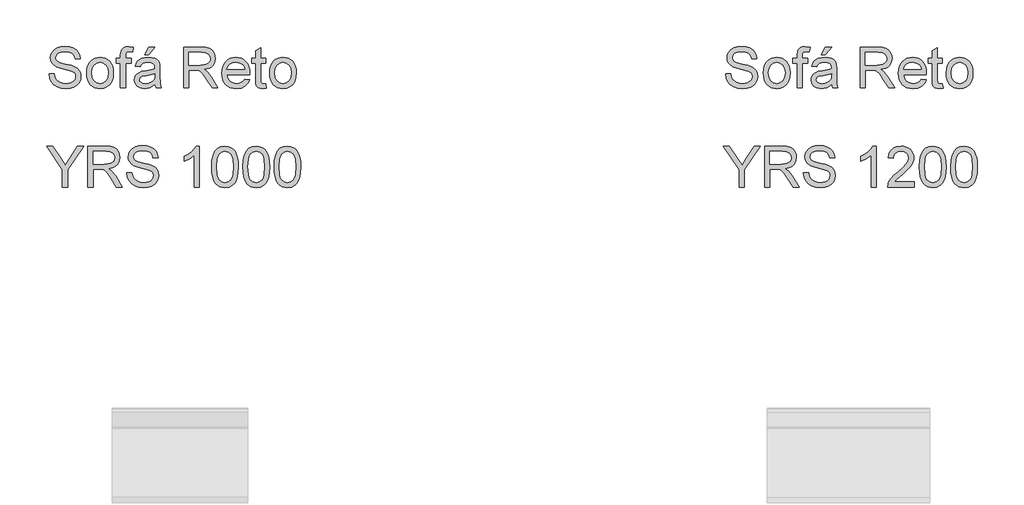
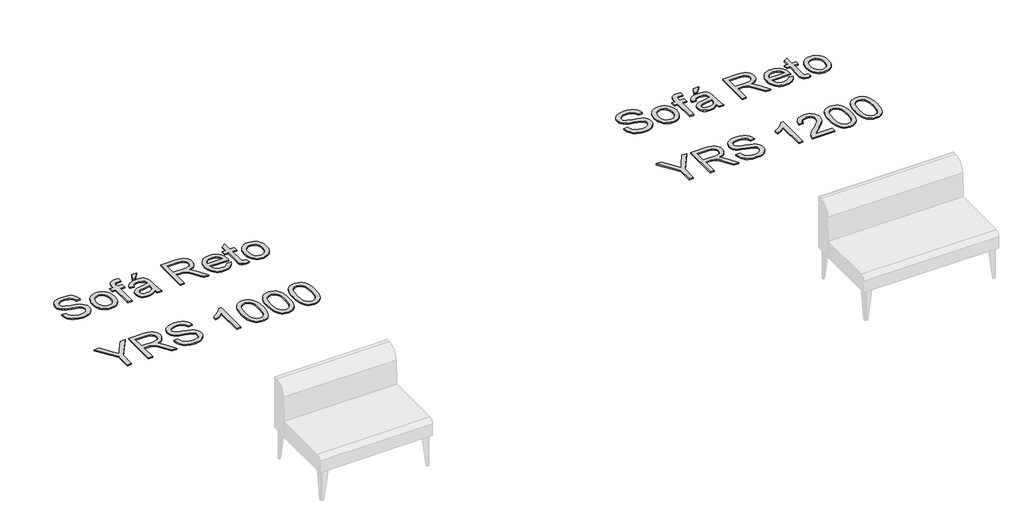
# One storey, part 10 of 26: 2 proxies.
"""IFC4 building model written with IfcOpenShell, lengths in millimetres."""

from ifc_helpers import new_model, si_unit, origin, origin_with_axes, place, context, project, spatial, polyline, outline, extrude, element, save

model = new_model("IFC4")

# Units and contexts
model_context = context("Model", 3, world=origin())
ifc_project = project(units=[si_unit("LENGTHUNIT", "METRE", prefix="MILLI")], contexts=[model_context])

# Site, building, storey
site = spatial("IfcSite", under=ifc_project)
building = spatial("IfcBuilding", under=site)
storey = spatial("IfcBuildingStorey", under=building, Name="Marelli - Linha YOUNG - Planta Baixa", Elevation=0.0)

# Proxies
placement = place(None, origin())
element("IfcBuildingElementProxy", 1, Name="300mm Arial", ObjectType="300mm Arial", at=placement, inside=storey, context=model_context, shape_type="SweptSolid", body=[
    extrude(outline(polyline([(-10025.7380244, 188.9537033), (-9988.0669081, 188.9537033), (-9983.7442947, 168.0488089), (-9975.9268023, 151.2457988), (-9963.7315142, 137.9100765), (-9946.2755135, 127.4070455), (-9924.9383578, 120.5920316), (-9901.0996045, 118.3203602), (-9880.1119367, 120.0402086), (-9861.736231, 125.1997535), (-9846.8462072, 133.3667338), (-9836.3155851, 144.1088881), (-9830.0523942, 156.442132), (-9827.9646638, 169.3823812), (-9829.5281623, 181.9915366), (-9834.2186578, 192.8900407), (-9843.7468014, 202.1882581), (-9859.8232446, 209.9965534), (-9914.6744501, 224.3807394), (-9950.6809004, 233.8996861), (-9973.7195103, 242.9587802), (-9992.472295, 255.6323149), (-10005.7620321, 270.9913882), (-10013.680692, 288.7049063), (-10016.3202454, 308.4417753), (-10013.0552927, 330.505498), (-10003.2604345, 351.0792986), (-9987.1931884, 368.5169052), (-9965.1110716, 381.1720458), (-9938.6051739, 388.8699765), (-9909.2665848, 391.4359535), (-9877.4815804, 388.7504149), (-9849.6697015, 380.6937992), (-9826.8242296, 367.4316533), (-9809.9384461, 349.129524), (-9799.2514741, 326.9278456), (-9795.0024371, 301.9670522), (-9832.6735534, 301.9670522), (-9839.5897349, 324.4446421), (-9854.0107091, 340.6682381), (-9876.5434813, 350.4906874), (-9907.7950568, 353.7648371), (-9939.7823963, 350.5274756), (-9961.7265573, 340.8153909), (-9974.4184861, 326.5231754), (-9978.6491291, 309.5454213), (-9975.6508908, 295.0692648), (-9966.656176, 283.4257997), (-9945.3925967, 273.0147392), (-9905.1463064, 262.3829495), (-9863.6124292, 252.2845888), (-9838.4860889, 243.473815), (-9817.0109774, 229.8069989), (-9802.0289832, 212.9396094), (-9793.2274064, 193.0555876), (-9790.2935475, 170.3388744), (-9793.6688648, 147.1163234), (-9803.7948168, 125.2733299), (-9820.257536, 106.47456), (-9842.6431554, 92.3846796), (-9869.5629204, 83.5831028), (-9899.6280765, 80.6492439), (-9936.5358377, 83.8130291), (-9966.9136934, 93.3043846), (-9991.1111316, 109.1600986), (-10009.4776403, 131.4169593), (-10021.2682582, 158.5298623), (-10025.7380244, 188.9537033)])), origin_with_axes(), (0.0, 0.0, 1.0), 10.0),
    extrude(outline(polyline([(-9747.9135417, 196.0170376), (-9745.8763951, 224.6796436), (-9739.7649555, 249.378321), (-9729.5792227, 270.11307), (-9715.3191969, 286.8838904), (-9700.962602, 297.6030521), (-9685.1160851, 305.2595961), (-9667.7796461, 309.8535225), (-9648.953285, 311.3848313), (-9628.1702515, 309.5201294), (-9609.3783793, 303.9260239), (-9592.5776685, 294.6025145), (-9577.7681189, 281.5496015), (-9565.6808961, 265.2087431), (-9557.0471655, 246.0213978), (-9551.8669272, 223.9875656), (-9550.1401811, 199.1072464), (-9553.1936016, 161.049854), (-9562.3538633, 132.0791469), (-9577.3542517, 110.3833062), (-9597.9280522, 94.1505132), (-9622.3646138, 84.0245612), (-9648.953285, 80.6492439), (-9670.0398211, 82.507048), (-9689.0064372, 88.0804602), (-9705.8531333, 97.3694806), (-9720.5799094, 110.3741091), (-9732.5383735, 126.8736166), (-9741.0801336, 146.6472739), (-9746.2051897, 169.6950809), (-9747.9135417, 196.0170376)]), holes=[polyline([(-9710.2424254, 196.090614), (-9705.8830237, 161.9971501), (-9692.8048188, 137.7077414), (-9673.1231321, 123.1672055), (-9648.953285, 118.3203602), (-9624.8938025, 123.1947967), (-9605.248904, 137.818106), (-9592.170699, 162.4294115), (-9587.8112974, 197.2678364), (-9592.1982902, 230.3680189), (-9605.3592686, 254.3263339), (-9625.0317582, 268.8668697), (-9648.953285, 273.713715), (-9673.1231321, 268.8852638), (-9692.8048188, 254.3999103), (-9705.8830237, 230.1656838), (-9710.2424254, 196.090614)])]), origin_with_axes(), (0.0, 0.0, 1.0), 10.0),
    extrude(outline(polyline([(-9498.3423962, 85.3581335), (-9498.3423962, 269.0048255), (-9531.3046229, 269.0048255), (-9531.3046229, 306.6759418), (-9498.3423962, 306.6759418), (-9498.3423962, 328.9695907), (-9494.3692706, 360.3867131), (-9486.7909015, 372.913095), (-9475.0922541, 382.8275148), (-9458.7215053, 389.2838438), (-9437.1268322, 391.4359535), (-9402.7666538, 387.3156751), (-9408.2848837, 351.9990036), (-9429.9899215, 353.7648371), (-9444.3097281, 352.2013387), (-9453.7183101, 347.5108432), (-9458.9330374, 338.5529166), (-9460.6712798, 324.1871247), (-9460.6712798, 306.6759418), (-9418.291274, 306.6759418), (-9418.291274, 269.0048255), (-9460.6712798, 269.0048255), (-9460.6712798, 85.3581335), (-9498.3423962, 85.3581335)])), origin_with_axes(), (0.0, 0.0, 1.0), 10.0),
    extrude(outline(polyline([(-9244.0623611, 113.6114707), (-9262.0609877, 98.178821), (-9280.5930432, 88.0804602), (-9300.0815919, 82.507048), (-9320.9496981, 80.6492439), (-9352.4311998, 85.1190102), (-9375.6537508, 98.5283089), (-9389.9735574, 118.8905773), (-9394.7468263, 144.2192527), (-9392.9442045, 159.8358434), (-9387.5363392, 174.0176943), (-9379.194615, 186.1578001), (-9368.5904165, 195.6491556), (-9342.2132774, 208.0099907), (-9309.6189326, 213.6753734), (-9271.1016877, 219.6350617), (-9244.2830903, 226.6248196), (-9244.0623611, 235.0125291), (-9246.6559292, 251.8247363), (-9254.4366334, 262.8244079), (-9271.8374517, 270.9913882), (-9296.0808752, 273.713715), (-9318.5216769, 271.9018962), (-9334.1934499, 266.4664397), (-9344.8804219, 256.4140642), (-9352.3668205, 240.7514882), (-9390.0379368, 245.4603778), (-9383.4988343, 266.0617695), (-9373.7407644, 282.2485773), (-9359.8532191, 294.6278064), (-9340.9256904, 303.8064622), (-9317.7767159, 309.490239), (-9291.2248329, 311.3848313), (-9265.7582018, 309.7109682), (-9245.5706773, 304.689379), (-9230.3495597, 297.138601), (-9219.7821494, 287.8771718), (-9212.7739974, 276.4268447), (-9208.2306548, 262.3093731), (-9206.3912448, 229.3471464), (-9206.3912448, 182.4789802), (-9204.4782584, 117.0327733), (-9196.9734657, 85.3581335), (-9234.644582, 85.3581335), (-9244.0623611, 113.6114707)]), holes=[polyline([(-9244.0623611, 188.9537033), (-9304.8364667, 177.4022087), (-9337.2468705, 171.2953675), (-9351.9253621, 161.3625537), (-9357.07571, 146.8680031), (-9354.2706098, 135.6659963), (-9345.8553092, 126.4873405), (-9332.0137491, 120.3621053), (-9312.9298706, 118.3203602), (-9292.6963609, 120.5736375), (-9274.8172959, 127.3334691), (-9260.3227453, 137.2938741), (-9250.2427786, 149.1488714), (-9245.7730124, 161.3625537), (-9244.2830903, 178.2851254), (-9244.0623611, 188.9537033)])]), origin_with_axes(), (0.0, 0.0, 1.0), 10.0),
    extrude(outline(polyline([(-9319.4045937, 330.2203895), (-9291.1512565, 386.7270639), (-9244.0623611, 386.7270639), (-9291.1512565, 330.2203895), (-9319.4045937, 330.2203895)])), origin_with_axes(), (0.0, 0.0, 1.0), 10.0),
    extrude(outline(polyline([(-9032.1623319, 85.3581335), (-9032.1623319, 386.7270639), (-8902.2999876, 386.7270639), (-8867.3971833, 384.6945159), (-8842.0041286, 378.5968718), (-8823.4444819, 367.3396828), (-8809.0419018, 349.8284998), (-8799.7988667, 328.114265), (-8796.717855, 304.2479206), (-8801.8222176, 274.5598436), (-8817.1353057, 249.9485381), (-8828.7350848, 239.9191552), (-8843.1169716, 231.9039262), (-8880.2270679, 221.9159301), (-8858.8163357, 205.8026987), (-8828.2821301, 167.0279364), (-8778.0294496, 85.3581335), (-8821.807407, 85.3581335), (-8861.0236277, 147.8244962), (-8889.3505413, 189.1744325), (-8909.2529573, 208.7089665), (-8927.1688104, 215.8826654), (-8949.021001, 217.2070405), (-8994.4912156, 217.2070405), (-8994.4912156, 85.3581335), (-9032.1623319, 85.3581335)]), holes=[polyline([(-8994.4912156, 254.8781568), (-8910.1726623, 254.8781568), (-8885.9568299, 256.2117291), (-8867.167257, 260.2124458), (-8853.0221943, 267.1470214), (-8842.7398926, 277.2821704), (-8836.4767016, 289.5418378), (-8834.3889713, 302.849969), (-8838.3712939, 321.2256747), (-8850.3182617, 336.032925), (-8870.8736681, 345.800192), (-8900.6813068, 349.0559476), (-8994.4912156, 349.0559476), (-8994.4912156, 254.8781568)])]), origin_with_axes(), (0.0, 0.0, 1.0), 10.0),
    extrude(outline(polyline([(-8580.5503946, 151.282587), (-8543.6150423, 146.5736975), (-8556.9231734, 118.7434245), (-8578.1591616, 97.9396977), (-8606.8447602, 84.9718574), (-8642.5017226, 80.6492439), (-8665.8760248, 82.5139458), (-8686.7027443, 88.1080514), (-8704.9818809, 97.4315607), (-8720.7134348, 110.4844737), (-8733.3639769, 126.903507), (-8742.4000784, 146.3253771), (-8747.8217393, 168.750084), (-8749.6289596, 194.1776276), (-8747.8033452, 220.4673947), (-8742.326502, 243.6393619), (-8733.19843, 263.6935292), (-8720.4191292, 280.6298965), (-8704.7289621, 294.0851805), (-8686.8682912, 303.6960976), (-8666.8371166, 309.4626479), (-8644.6354381, 311.3848313), (-8623.1488304, 309.4672464), (-8603.7177632, 303.7144917), (-8586.3422367, 294.1265672), (-8571.0222509, 280.7034729), (-8558.5165623, 263.8038938), (-8549.5839276, 243.7865147), (-8544.2243468, 220.6513357), (-8542.4378199, 194.3983568), (-8542.6585491, 184.2448138), (-8711.9578433, 184.2448138), (-8705.4371349, 156.0466588), (-8690.2895937, 135.3165084), (-8668.4282062, 122.5693973), (-8641.7659586, 118.3203602), (-8621.7163898, 120.2885289), (-8604.8306063, 126.1930349), (-8591.1086078, 136.4017603), (-8580.5503946, 151.282587)]), holes=[polyline([(-8711.9578433, 221.9159301), (-8580.1089362, 221.9159301), (-8585.2041018, 241.818346), (-8595.192098, 256.0553792), (-8617.1546531, 269.2991311), (-8644.7825909, 273.713715), (-8670.1756457, 270.1912449), (-8691.1725105, 259.6238346), (-8705.7682287, 243.1519182), (-8711.9578433, 221.9159301)])]), origin_with_axes(), (0.0, 0.0, 1.0), 10.0),
    extrude(outline(polyline([(-8424.7155814, 116.7752559), (-8420.0066919, 84.2544875), (-8448.1864527, 80.6492439), (-8466.2678528, 82.2127424), (-8479.7507279, 86.9032378), (-8489.2788716, 94.1321191), (-8495.4960773, 103.3107748), (-8498.9173799, 119.0745183), (-8500.057814, 146.0586627), (-8500.057814, 269.0048255), (-8528.3111513, 269.0048255), (-8528.3111513, 306.6759418), (-8500.057814, 306.6759418), (-8500.057814, 360.4602895), (-8462.3866977, 382.6067856), (-8462.3866977, 306.6759418), (-8424.7155814, 306.6759418), (-8424.7155814, 269.0048255), (-8462.3866977, 269.0048255), (-8462.3866977, 147.1623087), (-8460.400135, 127.7381393), (-8453.9622, 120.858746), (-8441.1231184, 118.3203602), (-8424.7155814, 116.7752559)])), origin_with_axes(), (0.0, 0.0, 1.0), 10.0),
    extrude(outline(polyline([(-8396.4622442, 196.0170376), (-8394.4250977, 224.6796436), (-8388.313658, 249.378321), (-8378.1279253, 270.11307), (-8363.8678994, 286.8838904), (-8349.5113046, 297.6030521), (-8333.6647876, 305.2595961), (-8316.3283486, 309.8535225), (-8297.5019875, 311.3848313), (-8276.718954, 309.5201294), (-8257.9270819, 303.9260239), (-8241.126371, 294.6025145), (-8226.3168214, 281.5496015), (-8214.2295986, 265.2087431), (-8205.5958681, 246.0213978), (-8200.4156297, 223.9875656), (-8198.6888836, 199.1072464), (-8201.7423042, 161.049854), (-8210.9025658, 132.0791469), (-8225.9029542, 110.3833062), (-8246.4767548, 94.1505132), (-8270.9133163, 84.0245612), (-8297.5019875, 80.6492439), (-8318.5885236, 82.507048), (-8337.5551397, 88.0804602), (-8354.4018358, 97.3694806), (-8369.128612, 110.3741091), (-8381.0870761, 126.8736166), (-8389.6288361, 146.6472739), (-8394.7538922, 169.6950809), (-8396.4622442, 196.0170376)]), holes=[polyline([(-8358.7911279, 196.090614), (-8354.4317263, 161.9971501), (-8341.3535213, 137.7077414), (-8321.6718346, 123.1672055), (-8297.5019875, 118.3203602), (-8273.442505, 123.1947967), (-8253.7976065, 137.818106), (-8240.7194015, 162.4294115), (-8236.3599999, 197.2678364), (-8240.7469927, 230.3680189), (-8253.9079711, 254.3263339), (-8273.5804608, 268.8668697), (-8297.5019875, 273.713715), (-8321.6718346, 268.8852638), (-8341.3535213, 254.3999103), (-8354.4317263, 230.1656838), (-8358.7911279, 196.090614)])]), origin_with_axes(), (0.0, 0.0, 1.0), 10.0),
    extrude(outline(polyline([(-9926.8513441, -646.4907736), (-9926.8513441, -518.8357213), (-10044.5735826, -345.1218432), (-10000.1334376, -345.1218432), (-9937.2991928, -437.9016823), (-9905.1463064, -485.2113069), (-9872.9198436, -434.517168), (-9815.8981344, -345.1218432), (-9771.4579894, -345.1218432), (-9889.1802278, -518.8357213), (-9889.1802278, -646.4907736), (-9926.8513441, -646.4907736)])), origin_with_axes(), (0.0, 0.0, 1.0), 10.0),
    extrude(outline(polyline([(-9738.4957626, -646.4907736), (-9738.4957626, -345.1218432), (-9608.6334183, -345.1218432), (-9573.730614, -347.1543912), (-9548.3375593, -353.2520352), (-9529.7779126, -364.5092243), (-9515.3753325, -382.0204073), (-9506.1322974, -403.734642), (-9503.0512857, -427.6009865), (-9508.1556484, -457.2890635), (-9523.4687364, -481.900369), (-9535.0685156, -491.9297519), (-9549.4504023, -499.9449808), (-9586.5604986, -509.932977), (-9565.1497665, -526.0462084), (-9534.6155609, -564.8209707), (-9484.3628803, -646.4907736), (-9528.1408378, -646.4907736), (-9567.3570585, -584.0244108), (-9595.6839721, -542.6744746), (-9615.586388, -523.1399406), (-9633.5022412, -515.9662417), (-9655.3544317, -514.6418665), (-9700.8246463, -514.6418665), (-9700.8246463, -646.4907736), (-9738.4957626, -646.4907736)]), holes=[polyline([(-9700.8246463, -476.9707502), (-9616.506093, -476.9707502), (-9592.2902607, -475.637178), (-9573.5006878, -471.6364613), (-9559.3556251, -464.7018857), (-9549.0733233, -454.5667367), (-9542.8101323, -442.3070692), (-9540.722402, -428.9989381), (-9544.7047246, -410.6232324), (-9556.6516924, -395.8159821), (-9577.2070989, -386.0487151), (-9607.0147375, -382.7929595), (-9700.8246463, -382.7929595), (-9700.8246463, -476.9707502)])]), origin_with_axes(), (0.0, 0.0, 1.0), 10.0),
    extrude(outline(polyline([(-9451.2535008, -542.8952038), (-9413.5823845, -542.8952038), (-9409.259771, -563.8000981), (-9401.4422786, -580.6031083), (-9389.2469905, -593.9388306), (-9371.7909898, -604.4418616), (-9350.4538341, -611.2568755), (-9326.6150808, -613.5285468), (-9305.627413, -611.8086985), (-9287.2517073, -606.6491535), (-9272.3616836, -598.4821732), (-9261.8310615, -587.740019), (-9255.5678705, -575.4067751), (-9253.4801402, -562.4665259), (-9255.0436386, -549.8573705), (-9259.7341341, -538.9588664), (-9269.2622778, -529.660649), (-9285.3387209, -521.8523536), (-9340.1899264, -507.4681676), (-9376.1963767, -497.949221), (-9399.2349867, -488.8901269), (-9417.9877714, -476.2165921), (-9431.2775084, -460.8575188), (-9439.1961684, -443.1440008), (-9441.8357217, -423.4071317), (-9438.570769, -401.3434091), (-9428.7759109, -380.7696085), (-9412.7086647, -363.3320019), (-9390.626548, -350.6768613), (-9364.1206502, -342.9789305), (-9334.7820611, -340.4129536), (-9302.9970567, -343.0984922), (-9275.1851779, -351.1551079), (-9252.339706, -364.4172538), (-9235.4539224, -382.7193831), (-9224.7669504, -404.9210615), (-9220.5179134, -429.8818548), (-9258.1890297, -429.8818548), (-9265.1052112, -407.4042649), (-9279.5261854, -391.180669), (-9302.0589576, -381.3582197), (-9333.3105331, -378.0840699), (-9365.2978726, -381.3214315), (-9387.2420336, -391.0335162), (-9399.9339624, -405.3257317), (-9404.1646054, -422.3034857), (-9401.1663671, -436.7796423), (-9392.1716523, -448.4231074), (-9370.908073, -458.8341679), (-9330.6617828, -469.4659575), (-9289.1279055, -479.5643183), (-9264.0015652, -488.3750921), (-9242.5264538, -502.0419082), (-9227.5444595, -518.9092977), (-9218.7428828, -538.7933195), (-9215.8090239, -561.5100327), (-9219.1843412, -584.7325837), (-9229.3102931, -606.5755771), (-9245.7730124, -625.3743471), (-9268.1586318, -639.4642275), (-9295.0783968, -648.2658042), (-9325.1435528, -651.1996631), (-9362.051314, -648.035878), (-9392.4291697, -638.5445225), (-9416.626608, -622.6888085), (-9434.9931166, -600.4319478), (-9446.7837345, -573.3190448), (-9451.2535008, -542.8952038)])), origin_with_axes(), (0.0, 0.0, 1.0), 10.0),
    extrude(outline(polyline([(-8914.4400934, -646.4907736), (-8952.1112097, -646.4907736), (-8952.1112097, -411.6349079), (-8987.7957632, -437.0555537), (-9027.4534423, -456.0750529), (-9027.4534423, -420.4640758), (-8997.8665329, -404.3692385), (-8972.2343549, -385.2209806), (-8952.0284363, -364.8587122), (-8938.7203051, -345.1218432), (-8914.4400934, -345.1218432), (-8914.4400934, -646.4907736)])), origin_with_axes(), (0.0, 0.0, 1.0), 10.0),
    extrude(outline(polyline([(-8824.9711922, -498.2343295), (-8822.2028802, -449.9958029), (-8813.8979441, -411.5245433), (-8800.1391575, -382.2319394), (-8781.0092938, -361.5293801), (-8756.3703971, -349.2237274), (-8726.0845119, -345.1218432), (-8702.871158, -347.5498643), (-8682.0858253, -354.8339278), (-8664.703401, -366.6889251), (-8651.6987725, -382.8297477), (-8641.8763232, -403.1184397), (-8634.0404367, -427.4170455), (-8628.9084829, -458.2731478), (-8627.1978316, -498.2343295), (-8629.9385524, -546.1969447), (-8638.160715, -584.5762338), (-8651.8367282, -613.8964288), (-8670.9390008, -634.6817616), (-8695.6330797, -647.0701877), (-8726.0845119, -651.1996631), (-8746.8330564, -649.4062384), (-8765.2271562, -644.0259642), (-8781.2668112, -635.0588406), (-8794.9520214, -622.5048675), (-8808.0854086, -599.8111469), (-8817.4663995, -571.5348171), (-8823.094994, -537.675878), (-8824.9711922, -498.2343295)]), holes=[polyline([(-8787.3000759, -498.1607531), (-8782.8854919, -557.4173455), (-8777.367262, -577.6853442), (-8769.6417401, -591.7131445), (-8749.9232652, -608.0746963), (-8726.0845119, -613.5285468), (-8702.2457586, -608.0563022), (-8682.5272837, -591.6395681), (-8674.8017618, -577.5887752), (-8669.2835318, -557.325375), (-8664.8689479, -498.1607531), (-8669.136379, -440.237733), (-8674.470668, -420.0364129), (-8681.9386725, -405.6752196), (-8701.6203592, -388.5135245), (-8726.5259703, -382.7929595), (-8750.1072062, -387.8329428), (-8769.0531289, -402.9528928), (-8777.0361682, -418.5878776), (-8782.7383391, -439.6675159), (-8787.3000759, -498.1607531)])]), origin_with_axes(), (0.0, 0.0, 1.0), 10.0),
    extrude(outline(polyline([(-8594.2356048, -498.2343295), (-8591.4672928, -449.9958029), (-8583.1623568, -411.5245433), (-8569.4035701, -382.2319394), (-8550.2737064, -361.5293801), (-8525.6348098, -349.2237274), (-8495.3489245, -345.1218432), (-8472.1355706, -347.5498643), (-8451.3502379, -354.8339278), (-8433.9678136, -366.6889251), (-8420.9631851, -382.8297477), (-8411.1407358, -403.1184397), (-8403.3048493, -427.4170455), (-8398.1728955, -458.2731478), (-8396.4622442, -498.2343295), (-8399.2029651, -546.1969447), (-8407.4251277, -584.5762338), (-8421.1011408, -613.8964288), (-8440.2034134, -634.6817616), (-8464.8974924, -647.0701877), (-8495.3489245, -651.1996631), (-8516.097469, -649.4062384), (-8534.4915688, -644.0259642), (-8550.5312238, -635.0588406), (-8564.216434, -622.5048675), (-8577.3498212, -599.8111469), (-8586.7308121, -571.5348171), (-8592.3594066, -537.675878), (-8594.2356048, -498.2343295)]), holes=[polyline([(-8556.5644885, -498.1607531), (-8552.1499046, -557.4173455), (-8546.6316746, -577.6853442), (-8538.9061527, -591.7131445), (-8519.1876778, -608.0746963), (-8495.3489245, -613.5285468), (-8471.5101712, -608.0563022), (-8451.7916963, -591.6395681), (-8444.0661744, -577.5887752), (-8438.5479445, -557.325375), (-8434.1333605, -498.1607531), (-8438.4007917, -440.237733), (-8443.7350806, -420.0364129), (-8451.2030851, -405.6752196), (-8470.8847718, -388.5135245), (-8495.7903829, -382.7929595), (-8519.3716188, -387.8329428), (-8538.3175415, -402.9528928), (-8546.3005808, -418.5878776), (-8552.0027518, -439.6675159), (-8556.5644885, -498.1607531)])]), origin_with_axes(), (0.0, 0.0, 1.0), 10.0),
    extrude(outline(polyline([(-8363.5000174, -498.2343295), (-8360.7317054, -449.9958029), (-8352.4267694, -411.5245433), (-8338.6679828, -382.2319394), (-8319.538119, -361.5293801), (-8294.8992224, -349.2237274), (-8264.6133371, -345.1218432), (-8241.3999832, -347.5498643), (-8220.6146505, -354.8339278), (-8203.2322262, -366.6889251), (-8190.2275977, -382.8297477), (-8180.4051484, -403.1184397), (-8172.5692619, -427.4170455), (-8167.4373081, -458.2731478), (-8165.7266568, -498.2343295), (-8168.4673777, -546.1969447), (-8176.6895403, -584.5762338), (-8190.3655535, -613.8964288), (-8209.4678261, -634.6817616), (-8234.161905, -647.0701877), (-8264.6133371, -651.1996631), (-8285.3618817, -649.4062384), (-8303.7559814, -644.0259642), (-8319.7956364, -635.0588406), (-8333.4808466, -622.5048675), (-8346.6142339, -599.8111469), (-8355.9952247, -571.5348171), (-8361.6238193, -537.675878), (-8363.5000174, -498.2343295)]), holes=[polyline([(-8325.8289011, -498.1607531), (-8321.4143172, -557.4173455), (-8315.8960873, -577.6853442), (-8308.1705654, -591.7131445), (-8288.4520904, -608.0746963), (-8264.6133371, -613.5285468), (-8240.7745838, -608.0563022), (-8221.0561089, -591.6395681), (-8213.330587, -577.5887752), (-8207.8123571, -557.325375), (-8203.3977731, -498.1607531), (-8207.6652043, -440.237733), (-8212.9994932, -420.0364129), (-8220.4674977, -405.6752196), (-8240.1491845, -388.5135245), (-8265.0547955, -382.7929595), (-8288.6360314, -387.8329428), (-8307.5819542, -402.9528928), (-8315.5649935, -418.5878776), (-8321.2671644, -439.6675159), (-8325.8289011, -498.1607531)])]), origin_with_axes(), (0.0, 0.0, 1.0), 10.0),
])
element("IfcBuildingElementProxy", 2, Name="300mm Arial", ObjectType="300mm Arial", at=placement, inside=storey, context=model_context, shape_type="SweptSolid", body=[
    extrude(outline(polyline([(-5025.7380244, 188.9537033), (-4988.0669081, 188.9537033), (-4983.7442947, 168.0488089), (-4975.9268023, 151.2457988), (-4963.7315142, 137.9100765), (-4946.2755135, 127.4070455), (-4924.9383578, 120.5920316), (-4901.0996045, 118.3203602), (-4880.1119367, 120.0402086), (-4861.736231, 125.1997535), (-4846.8462072, 133.3667338), (-4836.3155851, 144.1088881), (-4830.0523942, 156.442132), (-4827.9646638, 169.3823812), (-4829.5281623, 181.9915366), (-4834.2186578, 192.8900407), (-4843.7468014, 202.1882581), (-4859.8232446, 209.9965534), (-4914.6744501, 224.3807394), (-4950.6809004, 233.8996861), (-4973.7195103, 242.9587802), (-4992.472295, 255.6323149), (-5005.7620321, 270.9913882), (-5013.680692, 288.7049063), (-5016.3202454, 308.4417753), (-5013.0552927, 330.505498), (-5003.2604345, 351.0792986), (-4987.1931884, 368.5169052), (-4965.1110716, 381.1720458), (-4938.6051739, 388.8699765), (-4909.2665848, 391.4359535), (-4877.4815804, 388.7504149), (-4849.6697015, 380.6937992), (-4826.8242296, 367.4316533), (-4809.9384461, 349.129524), (-4799.2514741, 326.9278456), (-4795.0024371, 301.9670522), (-4832.6735534, 301.9670522), (-4839.5897349, 324.4446421), (-4854.0107091, 340.6682381), (-4876.5434813, 350.4906874), (-4907.7950568, 353.7648371), (-4939.7823963, 350.5274756), (-4961.7265573, 340.8153909), (-4974.4184861, 326.5231754), (-4978.6491291, 309.5454213), (-4975.6508908, 295.0692648), (-4966.656176, 283.4257997), (-4945.3925967, 273.0147392), (-4905.1463064, 262.3829495), (-4863.6124292, 252.2845888), (-4838.4860889, 243.473815), (-4817.0109774, 229.8069989), (-4802.0289832, 212.9396094), (-4793.2274064, 193.0555876), (-4790.2935475, 170.3388744), (-4793.6688648, 147.1163234), (-4803.7948168, 125.2733299), (-4820.257536, 106.47456), (-4842.6431554, 92.3846796), (-4869.5629204, 83.5831028), (-4899.6280765, 80.6492439), (-4936.5358377, 83.8130291), (-4966.9136934, 93.3043846), (-4991.1111316, 109.1600986), (-5009.4776403, 131.4169593), (-5021.2682582, 158.5298623), (-5025.7380244, 188.9537033)])), origin_with_axes(), (0.0, 0.0, 1.0), 10.0),
    extrude(outline(polyline([(-4747.9135417, 196.0170376), (-4745.8763951, 224.6796436), (-4739.7649555, 249.378321), (-4729.5792227, 270.11307), (-4715.3191969, 286.8838904), (-4700.962602, 297.6030521), (-4685.1160851, 305.2595961), (-4667.7796461, 309.8535225), (-4648.953285, 311.3848313), (-4628.1702515, 309.5201294), (-4609.3783793, 303.9260239), (-4592.5776685, 294.6025145), (-4577.7681189, 281.5496015), (-4565.6808961, 265.2087431), (-4557.0471655, 246.0213978), (-4551.8669272, 223.9875656), (-4550.1401811, 199.1072464), (-4553.1936016, 161.049854), (-4562.3538633, 132.0791469), (-4577.3542517, 110.3833062), (-4597.9280522, 94.1505132), (-4622.3646138, 84.0245612), (-4648.953285, 80.6492439), (-4670.0398211, 82.507048), (-4689.0064372, 88.0804602), (-4705.8531333, 97.3694806), (-4720.5799094, 110.3741091), (-4732.5383735, 126.8736166), (-4741.0801336, 146.6472739), (-4746.2051897, 169.6950809), (-4747.9135417, 196.0170376)]), holes=[polyline([(-4710.2424254, 196.090614), (-4705.8830237, 161.9971501), (-4692.8048188, 137.7077414), (-4673.1231321, 123.1672055), (-4648.953285, 118.3203602), (-4624.8938025, 123.1947967), (-4605.248904, 137.818106), (-4592.170699, 162.4294115), (-4587.8112974, 197.2678364), (-4592.1982902, 230.3680189), (-4605.3592686, 254.3263339), (-4625.0317582, 268.8668697), (-4648.953285, 273.713715), (-4673.1231321, 268.8852638), (-4692.8048188, 254.3999103), (-4705.8830237, 230.1656838), (-4710.2424254, 196.090614)])]), origin_with_axes(), (0.0, 0.0, 1.0), 10.0),
    extrude(outline(polyline([(-4498.3423962, 85.3581335), (-4498.3423962, 269.0048255), (-4531.3046229, 269.0048255), (-4531.3046229, 306.6759418), (-4498.3423962, 306.6759418), (-4498.3423962, 328.9695907), (-4494.3692706, 360.3867131), (-4486.7909015, 372.913095), (-4475.0922541, 382.8275148), (-4458.7215053, 389.2838438), (-4437.1268322, 391.4359535), (-4402.7666538, 387.3156751), (-4408.2848837, 351.9990036), (-4429.9899215, 353.7648371), (-4444.3097281, 352.2013387), (-4453.7183101, 347.5108432), (-4458.9330374, 338.5529166), (-4460.6712798, 324.1871247), (-4460.6712798, 306.6759418), (-4418.291274, 306.6759418), (-4418.291274, 269.0048255), (-4460.6712798, 269.0048255), (-4460.6712798, 85.3581335), (-4498.3423962, 85.3581335)])), origin_with_axes(), (0.0, 0.0, 1.0), 10.0),
    extrude(outline(polyline([(-4244.0623611, 113.6114707), (-4262.0609877, 98.178821), (-4280.5930432, 88.0804602), (-4300.0815919, 82.507048), (-4320.9496981, 80.6492439), (-4352.4311998, 85.1190102), (-4375.6537508, 98.5283089), (-4389.9735574, 118.8905773), (-4394.7468263, 144.2192527), (-4392.9442045, 159.8358434), (-4387.5363392, 174.0176943), (-4379.194615, 186.1578001), (-4368.5904165, 195.6491556), (-4342.2132774, 208.0099907), (-4309.6189326, 213.6753734), (-4271.1016877, 219.6350617), (-4244.2830903, 226.6248196), (-4244.0623611, 235.0125291), (-4246.6559292, 251.8247363), (-4254.4366334, 262.8244079), (-4271.8374517, 270.9913882), (-4296.0808752, 273.713715), (-4318.5216769, 271.9018962), (-4334.1934499, 266.4664397), (-4344.8804219, 256.4140642), (-4352.3668205, 240.7514882), (-4390.0379368, 245.4603778), (-4383.4988343, 266.0617695), (-4373.7407644, 282.2485773), (-4359.8532191, 294.6278064), (-4340.9256904, 303.8064622), (-4317.7767159, 309.490239), (-4291.2248329, 311.3848313), (-4265.7582018, 309.7109682), (-4245.5706773, 304.689379), (-4230.3495597, 297.138601), (-4219.7821494, 287.8771718), (-4212.7739974, 276.4268447), (-4208.2306548, 262.3093731), (-4206.3912448, 229.3471464), (-4206.3912448, 182.4789802), (-4204.4782584, 117.0327733), (-4196.9734657, 85.3581335), (-4234.644582, 85.3581335), (-4244.0623611, 113.6114707)]), holes=[polyline([(-4244.0623611, 188.9537033), (-4304.8364667, 177.4022087), (-4337.2468705, 171.2953675), (-4351.9253621, 161.3625537), (-4357.07571, 146.8680031), (-4354.2706098, 135.6659963), (-4345.8553092, 126.4873405), (-4332.0137491, 120.3621053), (-4312.9298706, 118.3203602), (-4292.6963609, 120.5736375), (-4274.8172959, 127.3334691), (-4260.3227453, 137.2938741), (-4250.2427786, 149.1488714), (-4245.7730124, 161.3625537), (-4244.2830903, 178.2851254), (-4244.0623611, 188.9537033)])]), origin_with_axes(), (0.0, 0.0, 1.0), 10.0),
    extrude(outline(polyline([(-4319.4045937, 330.2203895), (-4291.1512565, 386.7270639), (-4244.0623611, 386.7270639), (-4291.1512565, 330.2203895), (-4319.4045937, 330.2203895)])), origin_with_axes(), (0.0, 0.0, 1.0), 10.0),
    extrude(outline(polyline([(-4032.1623319, 85.3581335), (-4032.1623319, 386.7270639), (-3902.2999876, 386.7270639), (-3867.3971833, 384.6945159), (-3842.0041286, 378.5968718), (-3823.4444819, 367.3396828), (-3809.0419018, 349.8284998), (-3799.7988667, 328.114265), (-3796.717855, 304.2479206), (-3801.8222176, 274.5598436), (-3817.1353057, 249.9485381), (-3828.7350848, 239.9191552), (-3843.1169716, 231.9039262), (-3880.2270679, 221.9159301), (-3858.8163357, 205.8026987), (-3828.2821301, 167.0279364), (-3778.0294496, 85.3581335), (-3821.807407, 85.3581335), (-3861.0236277, 147.8244962), (-3889.3505413, 189.1744325), (-3909.2529573, 208.7089665), (-3927.1688104, 215.8826654), (-3949.021001, 217.2070405), (-3994.4912156, 217.2070405), (-3994.4912156, 85.3581335), (-4032.1623319, 85.3581335)]), holes=[polyline([(-3994.4912156, 254.8781568), (-3910.1726623, 254.8781568), (-3885.9568299, 256.2117291), (-3867.167257, 260.2124458), (-3853.0221943, 267.1470214), (-3842.7398926, 277.2821704), (-3836.4767016, 289.5418378), (-3834.3889713, 302.849969), (-3838.3712939, 321.2256747), (-3850.3182617, 336.032925), (-3870.8736681, 345.800192), (-3900.6813068, 349.0559476), (-3994.4912156, 349.0559476), (-3994.4912156, 254.8781568)])]), origin_with_axes(), (0.0, 0.0, 1.0), 10.0),
    extrude(outline(polyline([(-3580.5503946, 151.282587), (-3543.6150423, 146.5736975), (-3556.9231734, 118.7434245), (-3578.1591616, 97.9396977), (-3606.8447602, 84.9718574), (-3642.5017226, 80.6492439), (-3665.8760248, 82.5139458), (-3686.7027443, 88.1080514), (-3704.9818809, 97.4315607), (-3720.7134348, 110.4844737), (-3733.3639769, 126.903507), (-3742.4000784, 146.3253771), (-3747.8217393, 168.750084), (-3749.6289596, 194.1776276), (-3747.8033452, 220.4673947), (-3742.326502, 243.6393619), (-3733.19843, 263.6935292), (-3720.4191292, 280.6298965), (-3704.7289621, 294.0851805), (-3686.8682912, 303.6960976), (-3666.8371166, 309.4626479), (-3644.6354381, 311.3848313), (-3623.1488304, 309.4672464), (-3603.7177632, 303.7144917), (-3586.3422367, 294.1265672), (-3571.0222509, 280.7034729), (-3558.5165623, 263.8038938), (-3549.5839276, 243.7865147), (-3544.2243468, 220.6513357), (-3542.4378199, 194.3983568), (-3542.6585491, 184.2448138), (-3711.9578433, 184.2448138), (-3705.4371349, 156.0466588), (-3690.2895937, 135.3165084), (-3668.4282062, 122.5693973), (-3641.7659586, 118.3203602), (-3621.7163898, 120.2885289), (-3604.8306063, 126.1930349), (-3591.1086078, 136.4017603), (-3580.5503946, 151.282587)]), holes=[polyline([(-3711.9578433, 221.9159301), (-3580.1089362, 221.9159301), (-3585.2041018, 241.818346), (-3595.192098, 256.0553792), (-3617.1546531, 269.2991311), (-3644.7825909, 273.713715), (-3670.1756457, 270.1912449), (-3691.1725105, 259.6238346), (-3705.7682287, 243.1519182), (-3711.9578433, 221.9159301)])]), origin_with_axes(), (0.0, 0.0, 1.0), 10.0),
    extrude(outline(polyline([(-3424.7155814, 116.7752559), (-3420.0066919, 84.2544875), (-3448.1864527, 80.6492439), (-3466.2678528, 82.2127424), (-3479.7507279, 86.9032378), (-3489.2788716, 94.1321191), (-3495.4960773, 103.3107748), (-3498.9173799, 119.0745183), (-3500.057814, 146.0586627), (-3500.057814, 269.0048255), (-3528.3111513, 269.0048255), (-3528.3111513, 306.6759418), (-3500.057814, 306.6759418), (-3500.057814, 360.4602895), (-3462.3866977, 382.6067856), (-3462.3866977, 306.6759418), (-3424.7155814, 306.6759418), (-3424.7155814, 269.0048255), (-3462.3866977, 269.0048255), (-3462.3866977, 147.1623087), (-3460.400135, 127.7381393), (-3453.9622, 120.858746), (-3441.1231184, 118.3203602), (-3424.7155814, 116.7752559)])), origin_with_axes(), (0.0, 0.0, 1.0), 10.0),
    extrude(outline(polyline([(-3396.4622442, 196.0170376), (-3394.4250977, 224.6796436), (-3388.313658, 249.378321), (-3378.1279253, 270.11307), (-3363.8678994, 286.8838904), (-3349.5113046, 297.6030521), (-3333.6647876, 305.2595961), (-3316.3283486, 309.8535225), (-3297.5019875, 311.3848313), (-3276.718954, 309.5201294), (-3257.9270819, 303.9260239), (-3241.126371, 294.6025145), (-3226.3168214, 281.5496015), (-3214.2295986, 265.2087431), (-3205.5958681, 246.0213978), (-3200.4156297, 223.9875656), (-3198.6888836, 199.1072464), (-3201.7423042, 161.049854), (-3210.9025658, 132.0791469), (-3225.9029542, 110.3833062), (-3246.4767548, 94.1505132), (-3270.9133163, 84.0245612), (-3297.5019875, 80.6492439), (-3318.5885236, 82.507048), (-3337.5551397, 88.0804602), (-3354.4018358, 97.3694806), (-3369.128612, 110.3741091), (-3381.0870761, 126.8736166), (-3389.6288361, 146.6472739), (-3394.7538922, 169.6950809), (-3396.4622442, 196.0170376)]), holes=[polyline([(-3358.7911279, 196.090614), (-3354.4317263, 161.9971501), (-3341.3535213, 137.7077414), (-3321.6718346, 123.1672055), (-3297.5019875, 118.3203602), (-3273.442505, 123.1947967), (-3253.7976065, 137.818106), (-3240.7194015, 162.4294115), (-3236.3599999, 197.2678364), (-3240.7469927, 230.3680189), (-3253.9079711, 254.3263339), (-3273.5804608, 268.8668697), (-3297.5019875, 273.713715), (-3321.6718346, 268.8852638), (-3341.3535213, 254.3999103), (-3354.4317263, 230.1656838), (-3358.7911279, 196.090614)])]), origin_with_axes(), (0.0, 0.0, 1.0), 10.0),
    extrude(outline(polyline([(-4926.8513441, -646.4907736), (-4926.8513441, -518.8357213), (-5044.5735826, -345.1218432), (-5000.1334376, -345.1218432), (-4937.2991928, -437.9016823), (-4905.1463064, -485.2113069), (-4872.9198436, -434.517168), (-4815.8981344, -345.1218432), (-4771.4579894, -345.1218432), (-4889.1802278, -518.8357213), (-4889.1802278, -646.4907736), (-4926.8513441, -646.4907736)])), origin_with_axes(), (0.0, 0.0, 1.0), 10.0),
    extrude(outline(polyline([(-4738.4957626, -646.4907736), (-4738.4957626, -345.1218432), (-4608.6334183, -345.1218432), (-4573.730614, -347.1543912), (-4548.3375593, -353.2520352), (-4529.7779126, -364.5092243), (-4515.3753325, -382.0204073), (-4506.1322974, -403.734642), (-4503.0512857, -427.6009865), (-4508.1556484, -457.2890635), (-4523.4687364, -481.900369), (-4535.0685156, -491.9297519), (-4549.4504023, -499.9449808), (-4586.5604986, -509.932977), (-4565.1497665, -526.0462084), (-4534.6155609, -564.8209707), (-4484.3628803, -646.4907736), (-4528.1408378, -646.4907736), (-4567.3570585, -584.0244108), (-4595.6839721, -542.6744746), (-4615.586388, -523.1399406), (-4633.5022412, -515.9662417), (-4655.3544317, -514.6418665), (-4700.8246463, -514.6418665), (-4700.8246463, -646.4907736), (-4738.4957626, -646.4907736)]), holes=[polyline([(-4700.8246463, -476.9707502), (-4616.506093, -476.9707502), (-4592.2902607, -475.637178), (-4573.5006878, -471.6364613), (-4559.3556251, -464.7018857), (-4549.0733233, -454.5667367), (-4542.8101323, -442.3070692), (-4540.722402, -428.9989381), (-4544.7047246, -410.6232324), (-4556.6516924, -395.8159821), (-4577.2070989, -386.0487151), (-4607.0147375, -382.7929595), (-4700.8246463, -382.7929595), (-4700.8246463, -476.9707502)])]), origin_with_axes(), (0.0, 0.0, 1.0), 10.0),
    extrude(outline(polyline([(-4451.2535008, -542.8952038), (-4413.5823845, -542.8952038), (-4409.259771, -563.8000981), (-4401.4422786, -580.6031083), (-4389.2469905, -593.9388306), (-4371.7909898, -604.4418616), (-4350.4538341, -611.2568755), (-4326.6150808, -613.5285468), (-4305.627413, -611.8086985), (-4287.2517073, -606.6491535), (-4272.3616836, -598.4821732), (-4261.8310615, -587.740019), (-4255.5678705, -575.4067751), (-4253.4801402, -562.4665259), (-4255.0436386, -549.8573705), (-4259.7341341, -538.9588664), (-4269.2622778, -529.660649), (-4285.3387209, -521.8523536), (-4340.1899264, -507.4681676), (-4376.1963767, -497.949221), (-4399.2349867, -488.8901269), (-4417.9877714, -476.2165921), (-4431.2775084, -460.8575188), (-4439.1961684, -443.1440008), (-4441.8357217, -423.4071317), (-4438.570769, -401.3434091), (-4428.7759109, -380.7696085), (-4412.7086647, -363.3320019), (-4390.626548, -350.6768613), (-4364.1206502, -342.9789305), (-4334.7820611, -340.4129536), (-4302.9970567, -343.0984922), (-4275.1851779, -351.1551079), (-4252.339706, -364.4172538), (-4235.4539224, -382.7193831), (-4224.7669504, -404.9210615), (-4220.5179134, -429.8818548), (-4258.1890297, -429.8818548), (-4265.1052112, -407.4042649), (-4279.5261854, -391.180669), (-4302.0589576, -381.3582197), (-4333.3105331, -378.0840699), (-4365.2978726, -381.3214315), (-4387.2420336, -391.0335162), (-4399.9339624, -405.3257317), (-4404.1646054, -422.3034857), (-4401.1663671, -436.7796423), (-4392.1716523, -448.4231074), (-4370.908073, -458.8341679), (-4330.6617828, -469.4659575), (-4289.1279055, -479.5643183), (-4264.0015652, -488.3750921), (-4242.5264538, -502.0419082), (-4227.5444595, -518.9092977), (-4218.7428828, -538.7933195), (-4215.8090239, -561.5100327), (-4219.1843412, -584.7325837), (-4229.3102931, -606.5755771), (-4245.7730124, -625.3743471), (-4268.1586318, -639.4642275), (-4295.0783968, -648.2658042), (-4325.1435528, -651.1996631), (-4362.051314, -648.035878), (-4392.4291697, -638.5445225), (-4416.626608, -622.6888085), (-4434.9931166, -600.4319478), (-4446.7837345, -573.3190448), (-4451.2535008, -542.8952038)])), origin_with_axes(), (0.0, 0.0, 1.0), 10.0),
    extrude(outline(polyline([(-3914.4400934, -646.4907736), (-3952.1112097, -646.4907736), (-3952.1112097, -411.6349079), (-3987.7957632, -437.0555537), (-4027.4534423, -456.0750529), (-4027.4534423, -420.4640758), (-3997.8665329, -404.3692385), (-3972.2343549, -385.2209806), (-3952.0284363, -364.8587122), (-3938.7203051, -345.1218432), (-3914.4400934, -345.1218432), (-3914.4400934, -646.4907736)])), origin_with_axes(), (0.0, 0.0, 1.0), 10.0),
    extrude(outline(polyline([(-3631.9067211, -608.8196573), (-3631.9067211, -646.4907736), (-3829.6800817, -646.4907736), (-3825.6333798, -620.5183047), (-3816.3443594, -600.2204157), (-3802.7511197, -580.5295319), (-3783.087827, -559.9189431), (-3755.5886479, -536.861939), (-3714.9376874, -500.7543212), (-3690.5471111, -474.1012707), (-3678.351823, -452.4698093), (-3674.286727, -431.4269592), (-3678.1218968, -412.5638099), (-3689.6274062, -396.8828399), (-3707.3133331, -386.3154296), (-3729.6897554, -382.7929595), (-3753.1882179, -386.2326561), (-3771.4443619, -396.5517461), (-3783.2257828, -412.940889), (-3787.3000759, -434.5907444), (-3824.9711922, -429.8818548), (-3815.8385217, -393.4431432), (-3807.2921631, -378.9072059), (-3796.0924556, -366.8268809), (-3782.4969166, -357.3309269), (-3766.7630635, -350.5481026), (-3728.880415, -345.1218432), (-3708.6905913, -346.6301593), (-3690.7218551, -351.1551079), (-3674.9742064, -358.6966888), (-3661.4476453, -369.254902), (-3650.5836302, -382.0479984), (-3642.8236193, -396.2942287), (-3638.1676128, -411.9935928), (-3636.6156107, -429.1460909), (-3638.2894737, -447.1631116), (-3643.311063, -464.8674326), (-3652.2230043, -482.8752562), (-3665.5679237, -501.8027849), (-3686.8407, -524.3999365), (-3719.5362124, -553.4166288), (-3762.8727114, -589.6530053), (-3779.8688596, -608.8196573), (-3631.9067211, -608.8196573)])), origin_with_axes(), (0.0, 0.0, 1.0), 10.0),
    extrude(outline(polyline([(-3594.2356048, -498.2343295), (-3591.4672928, -449.9958029), (-3583.1623568, -411.5245433), (-3569.4035701, -382.2319394), (-3550.2737064, -361.5293801), (-3525.6348098, -349.2237274), (-3495.3489245, -345.1218432), (-3472.1355706, -347.5498643), (-3451.3502379, -354.8339278), (-3433.9678136, -366.6889251), (-3420.9631851, -382.8297477), (-3411.1407358, -403.1184397), (-3403.3048493, -427.4170455), (-3398.1728955, -458.2731478), (-3396.4622442, -498.2343295), (-3399.2029651, -546.1969447), (-3407.4251277, -584.5762338), (-3421.1011408, -613.8964288), (-3440.2034134, -634.6817616), (-3464.8974924, -647.0701877), (-3495.3489245, -651.1996631), (-3516.097469, -649.4062384), (-3534.4915688, -644.0259642), (-3550.5312238, -635.0588406), (-3564.216434, -622.5048675), (-3577.3498212, -599.8111469), (-3586.7308121, -571.5348171), (-3592.3594066, -537.675878), (-3594.2356048, -498.2343295)]), holes=[polyline([(-3556.5644885, -498.1607531), (-3552.1499046, -557.4173455), (-3546.6316746, -577.6853442), (-3538.9061527, -591.7131445), (-3519.1876778, -608.0746963), (-3495.3489245, -613.5285468), (-3471.5101712, -608.0563022), (-3451.7916963, -591.6395681), (-3444.0661744, -577.5887752), (-3438.5479445, -557.325375), (-3434.1333605, -498.1607531), (-3438.4007917, -440.237733), (-3443.7350806, -420.0364129), (-3451.2030851, -405.6752196), (-3470.8847718, -388.5135245), (-3495.7903829, -382.7929595), (-3519.3716188, -387.8329428), (-3538.3175415, -402.9528928), (-3546.3005808, -418.5878776), (-3552.0027518, -439.6675159), (-3556.5644885, -498.1607531)])]), origin_with_axes(), (0.0, 0.0, 1.0), 10.0),
    extrude(outline(polyline([(-3363.5000174, -498.2343295), (-3360.7317054, -449.9958029), (-3352.4267694, -411.5245433), (-3338.6679828, -382.2319394), (-3319.538119, -361.5293801), (-3294.8992224, -349.2237274), (-3264.6133371, -345.1218432), (-3241.3999832, -347.5498643), (-3220.6146505, -354.8339278), (-3203.2322262, -366.6889251), (-3190.2275977, -382.8297477), (-3180.4051484, -403.1184397), (-3172.5692619, -427.4170455), (-3167.4373081, -458.2731478), (-3165.7266568, -498.2343295), (-3168.4673777, -546.1969447), (-3176.6895403, -584.5762338), (-3190.3655535, -613.8964288), (-3209.4678261, -634.6817616), (-3234.161905, -647.0701877), (-3264.6133371, -651.1996631), (-3285.3618817, -649.4062384), (-3303.7559814, -644.0259642), (-3319.7956364, -635.0588406), (-3333.4808466, -622.5048675), (-3346.6142339, -599.8111469), (-3355.9952247, -571.5348171), (-3361.6238193, -537.675878), (-3363.5000174, -498.2343295)]), holes=[polyline([(-3325.8289011, -498.1607531), (-3321.4143172, -557.4173455), (-3315.8960873, -577.6853442), (-3308.1705654, -591.7131445), (-3288.4520904, -608.0746963), (-3264.6133371, -613.5285468), (-3240.7745838, -608.0563022), (-3221.0561089, -591.6395681), (-3213.330587, -577.5887752), (-3207.8123571, -557.325375), (-3203.3977731, -498.1607531), (-3207.6652043, -440.237733), (-3212.9994932, -420.0364129), (-3220.4674977, -405.6752196), (-3240.1491845, -388.5135245), (-3265.0547955, -382.7929595), (-3288.6360314, -387.8329428), (-3307.5819542, -402.9528928), (-3315.5649935, -418.5878776), (-3321.2671644, -439.6675159), (-3325.8289011, -498.1607531)])]), origin_with_axes(), (0.0, 0.0, 1.0), 10.0),
])

save(model, "model.ifc")
